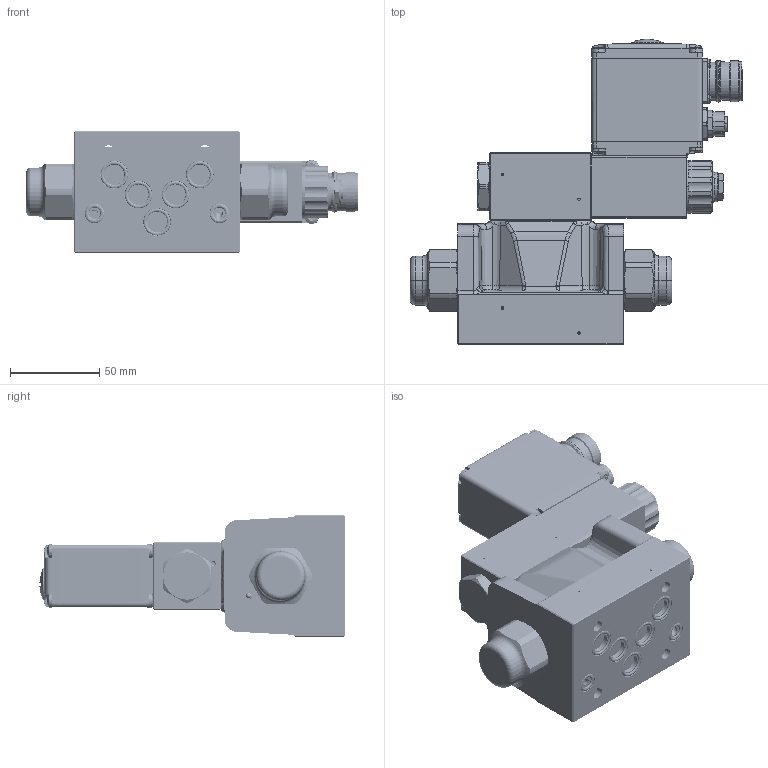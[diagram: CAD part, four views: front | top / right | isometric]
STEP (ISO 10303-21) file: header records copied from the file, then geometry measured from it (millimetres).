
FILE_DESCRIPTION (( 'STEP AP214' ), '1' );
FILE_NAME ('WVPFA10-4_2-Bside-ti_ae_xi_xe.STEP', '2018-12-21T08:41:07', ( '' ), ( '' ), 'SwSTEP 2.0', 'SolidWorks 2016', '' );
FILE_SCHEMA (( 'AUTOMOTIVE_DESIGN' ));
Length unit declared in the file: millimetre
Products named in the file (2): WVPFA10-4_2-Bside-ti_ae_xi_xe
Bounding box: 186.4 x 171.49 x 68 mm (x, y, z)
Volume: 703420.3 mm3; surface area: 103470.1 mm2
Topology: 32 solids, 74 shells, 5863 faces, 15892 edges, 10351 vertices
Faces by surface type: plane 3249, cylinder 1517, cone 382, bspline 369, torus 287, sphere 59
Entity records: 261729 total; most frequent: CARTESIAN_POINT 51082, ORIENTED_EDGE 31732, DIRECTION 29429, EDGE_CURVE 15866, VERTEX_POINT 10351, LINE 10063, VECTOR 10063, AXIS2_PLACEMENT_3D 9683
